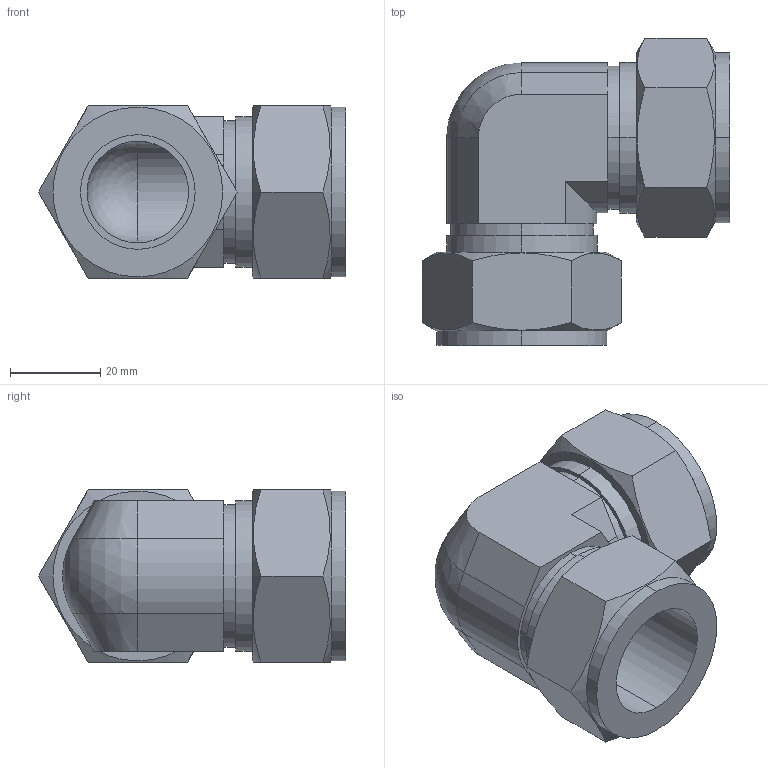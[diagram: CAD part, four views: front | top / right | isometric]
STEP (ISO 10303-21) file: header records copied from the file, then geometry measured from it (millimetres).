
FILE_DESCRIPTION (( 'STEP AP203' ), '1' );
FILE_NAME ('DLA16 SS.STEP', '2009-10-26T06:02:36', ( ' ' ), ( '' ), 'SwSTEP 2.0', 'SolidWorks 2008', '' );
FILE_SCHEMA (( 'CONFIG_CONTROL_DESIGN' ));
Length unit declared in the file: millimetre
Products named in the file (1): DLA16 SS
Bounding box: 68 x 68 x 38.1 mm (x, y, z)
Volume: 52085.7 mm3; surface area: 20288.3 mm2
Topology: 1 solids, 1 shells, 68 faces, 164 edges, 104 vertices
Faces by surface type: plane 32, cylinder 24, cone 10, sphere 2
Entity records: 2297 total; most frequent: CARTESIAN_POINT 673, ORIENTED_EDGE 320, DIRECTION 316, EDGE_CURVE 160, AXIS2_PLACEMENT_3D 121, VERTEX_POINT 102, EDGE_LOOP 78, VECTOR 74
